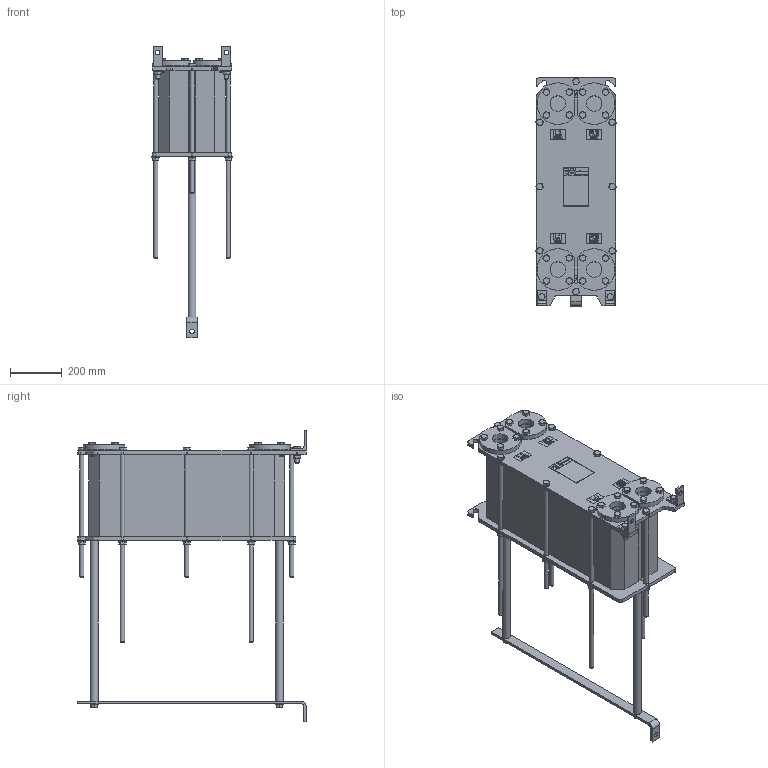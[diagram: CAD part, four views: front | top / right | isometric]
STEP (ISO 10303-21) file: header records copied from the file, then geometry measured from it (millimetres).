
FILE_DESCRIPTION (( 'STEP AP214' ), '1' );
FILE_NAME ('ÏÒ S50 ðåä7 10áàð ê ñèãìà 111...180.STEP', '2021-04-24T20:08:56', ( '' ), ( '' ), 'SwSTEP 2.0', 'SolidWorks 2018', '' );
FILE_SCHEMA (( 'AUTOMOTIVE_DESIGN' ));
Length unit declared in the file: millimetre
Products named in the file (3): ÏÒ S50 ðåä7 10áàð ê ñèãìà1; ÏÒ S50 ðåä7 10áàð ê ñèãìà2 111...180; ÏÒ S50 ðåä7 10áàð ê ñèãìà 111...180
Assembly tree (2 placements, depth 2):
  ÏÒ S50 ðåä7 10áàð ê ñèãìà 111...180
    ÏÒ S50 ðåä7 10áàð ê ñèãìà2 111...180
    ÏÒ S50 ðåä7 10áàð ê ñèãìà1
Bounding box: 308.99 x 880 x 1125 mm (x, y, z)
Volume: 67547104 mm3; surface area: 3164539.9 mm2
Topology: 30 solids, 36 shells, 1958 faces, 4780 edges, 3049 vertices
Faces by surface type: plane 1034, cone 416, bspline 275, cylinder 211, torus 22
Full cylindrical faces by diameter (mm): 16 x62, 17 x12, 18 x23, 29.48 x2, 30 x16, 60 x12, 60.01 x4, 101 x4
Entity records: 86216 total; most frequent: CARTESIAN_POINT 22848, ORIENTED_EDGE 8920, DIRECTION 7488, EDGE_CURVE 4460, VERTEX_POINT 2966, AXIS2_PLACEMENT_3D 2562, EDGE_LOOP 2444, LINE 2364
